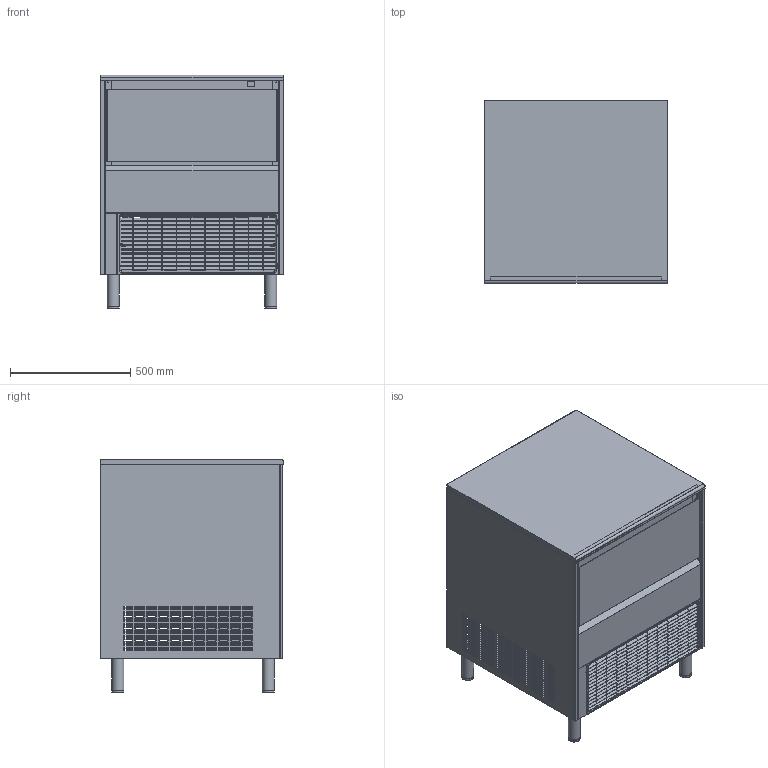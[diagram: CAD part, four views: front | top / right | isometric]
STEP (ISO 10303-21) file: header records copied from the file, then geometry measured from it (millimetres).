
FILE_DESCRIPTION(/* description */ ('Unknown'),/* implementation_level */ '2;1');
FILE_NAME(/* name */ 'SPIKA-NG-140_285',/* time_stamp */ '2018-04-20T12:59:44+02:00',/* author */ ('Unknown'),/* organization */ ('Unknown'),/* preprocessor_version */ 'ST-DEVELOPER v16.7',/* originating_system */ 'DEX',/* authorisation */ $);
FILE_SCHEMA (('CONFIG_CONTROL_DESIGN'));
Products named in the file (18): SPIKA-130; SPIKA-NG-130+carroceria_oa_0; 32-1+6257_r01; 32-3+6261_R01; 32-10+V130_IZQ; 32-3+6260_R01; 32-5+6263; 32-6+6280; 32-11+6296_oa_1; 32-12+6290; 32-9+6284; 32-10+V130_DCH; 32-25+6301; 32-47+6282; 35-66; 32-51+6313; 32-29; 7-144
Assembly tree (20 placements, depth 4):
  SPIKA-130
    SPIKA-NG-130+carroceria_oa_0
      32-1+6257_r01
      32-3+6261_R01
      32-10+V130_IZQ
      32-3+6260_R01
      32-5+6263
      32-6+6280
      32-11+6296_oa_1
        32-12+6290
      32-9+6284
      32-10+V130_DCH
      32-25+6301
      32-47+6282
      35-66
      32-51+6313
      32-29
    7-144  x4
Bounding box: 762 x 762.2 x 973.4 mm (x, y, z)
Volume: 4880479.8 mm3; surface area: 8566575.2 mm2
Topology: 18 solids, 18 shells, 4550 faces, 13429 edges, 8829 vertices
Faces by surface type: plane 2364, cylinder 1601, bspline 548, torus 33, sphere 4
Full cylindrical faces by diameter (mm): 2.4 x21, 2.5 x21, 2.75 x5, 2.9 x20, 3.25 x2, 3.5 x20, 4 x6, 4.25 x62, 4.5 x2, 5 x9, 6 x25, 7 x12, 8 x6, 9 x2, 10 x4, 13 x2, 30 x1, 32.8 x4, 39 x4, 40 x4, 43 x4, 50 x8
Entity records: 170240 total; most frequent: CARTESIAN_POINT 50786, ORIENTED_EDGE 26052, DIRECTION 22455, EDGE_CURVE 13026, VERTEX_POINT 8703, LINE 7579, VECTOR 7579, AXIS2_PLACEMENT_3D 7438
